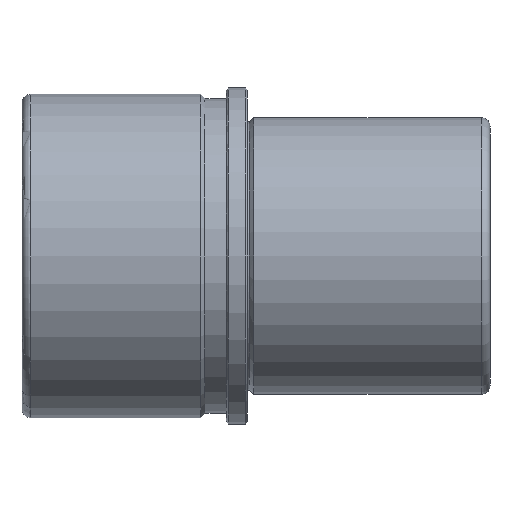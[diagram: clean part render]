
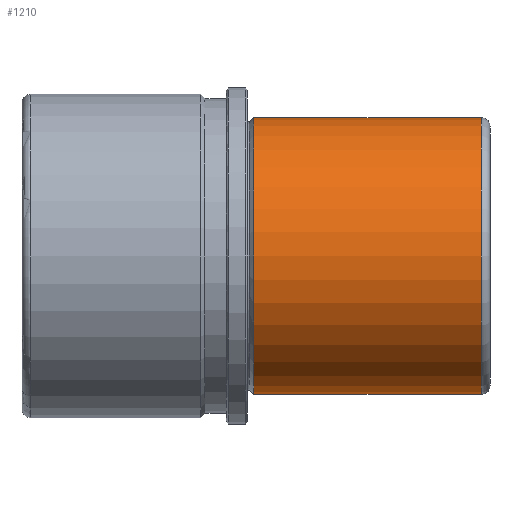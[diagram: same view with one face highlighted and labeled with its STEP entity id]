
A CAD part, front view. The second image highlights one B-rep face of the part: STEP entity #1210.
In plain terms, the highlighted cylindrical face has radius 32.5 mm (diameter 65 mm), a partial arc.
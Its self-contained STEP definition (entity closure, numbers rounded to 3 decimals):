
#968=CARTESIAN_POINT('Vertex',(55.,0.,32.5)) ;
#975=CARTESIAN_POINT('Vertex',(55.,0.,-32.5)) ;
#1004=CARTESIAN_POINT('Axis2P3D Location',(55.,0.,0.)) ;
#1008=CARTESIAN_POINT('Vertex',(55.,-32.5,0.)) ;
#1011=CARTESIAN_POINT('Axis2P3D Location',(55.,0.,0.)) ;
#1150=CARTESIAN_POINT('Line Origine',(57.,0.,32.5)) ;
#1154=CARTESIAN_POINT('Vertex',(1.414,0.,32.5)) ;
#1157=CARTESIAN_POINT('Line Origine',(57.,0.,-32.5)) ;
#1161=CARTESIAN_POINT('Vertex',(1.414,0.,-32.5)) ;
#1185=CARTESIAN_POINT('Axis2P3D Location',(57.,0.,0.)) ;
#1190=CARTESIAN_POINT('Axis2P3D Location',(1.414,0.,0.)) ;
#1194=CARTESIAN_POINT('Vertex',(1.414,-32.5,0.)) ;
#1197=CARTESIAN_POINT('Axis2P3D Location',(1.414,0.,0.)) ;
#1005=DIRECTION('Axis2P3D Direction',(1.,0.,-0.)) ;
#1012=DIRECTION('Axis2P3D Direction',(1.,0.,-0.)) ;
#1151=DIRECTION('Vector Direction',(-1.,0.,0.)) ;
#1158=DIRECTION('Vector Direction',(-1.,0.,0.)) ;
#1186=DIRECTION('Axis2P3D Direction',(-1.,-0.,-0.)) ;
#1187=DIRECTION('Axis2P3D XDirection',(0.,0.,-1.)) ;
#1191=DIRECTION('Axis2P3D Direction',(-1.,-0.,-0.)) ;
#1198=DIRECTION('Axis2P3D Direction',(-1.,-0.,-0.)) ;
#1006=AXIS2_PLACEMENT_3D('Circle Axis2P3D',#1004,#1005,$) ;
#1013=AXIS2_PLACEMENT_3D('Circle Axis2P3D',#1011,#1012,$) ;
#1188=AXIS2_PLACEMENT_3D('Cylinder Axis2P3D',#1185,#1186,#1187) ;
#1192=AXIS2_PLACEMENT_3D('Circle Axis2P3D',#1190,#1191,$) ;
#1199=AXIS2_PLACEMENT_3D('Circle Axis2P3D',#1197,#1198,$) ;
#1203=ORIENTED_EDGE('',*,*,#1163,.T.) ;
#1204=ORIENTED_EDGE('',*,*,#1015,.F.) ;
#1205=ORIENTED_EDGE('',*,*,#1010,.F.) ;
#1206=ORIENTED_EDGE('',*,*,#1156,.T.) ;
#1207=ORIENTED_EDGE('',*,*,#1196,.T.) ;
#1208=ORIENTED_EDGE('',*,*,#1201,.T.) ;
#1152=VECTOR('Line Direction',#1151,1.) ;
#1159=VECTOR('Line Direction',#1158,1.) ;
#1210=ADVANCED_FACE('FAMO-SF1-D50 x 110',(#1209),#1189,.T.) ;
#1007=CIRCLE('generated circle',#1006,32.5) ;
#1014=CIRCLE('generated circle',#1013,32.5) ;
#1193=CIRCLE('generated circle',#1192,32.5) ;
#1200=CIRCLE('generated circle',#1199,32.5) ;
#1189=CYLINDRICAL_SURFACE('generated cylinder',#1188,32.5) ;
#1010=EDGE_CURVE('',#969,#1009,#1007,.T.) ;
#1015=EDGE_CURVE('',#1009,#976,#1014,.T.) ;
#1156=EDGE_CURVE('',#969,#1155,#1153,.T.) ;
#1163=EDGE_CURVE('',#1162,#976,#1160,.F.) ;
#1196=EDGE_CURVE('',#1155,#1195,#1193,.F.) ;
#1201=EDGE_CURVE('',#1195,#1162,#1200,.F.) ;
#1202=EDGE_LOOP('',(#1203,#1204,#1205,#1206,#1207,#1208)) ;
#1209=FACE_OUTER_BOUND('',#1202,.T.) ;
#1153=LINE('Line',#1150,#1152) ;
#1160=LINE('Line',#1157,#1159) ;
#969=VERTEX_POINT('',#968) ;
#976=VERTEX_POINT('',#975) ;
#1009=VERTEX_POINT('',#1008) ;
#1155=VERTEX_POINT('',#1154) ;
#1162=VERTEX_POINT('',#1161) ;
#1195=VERTEX_POINT('',#1194) ;
